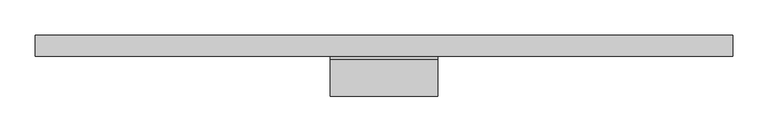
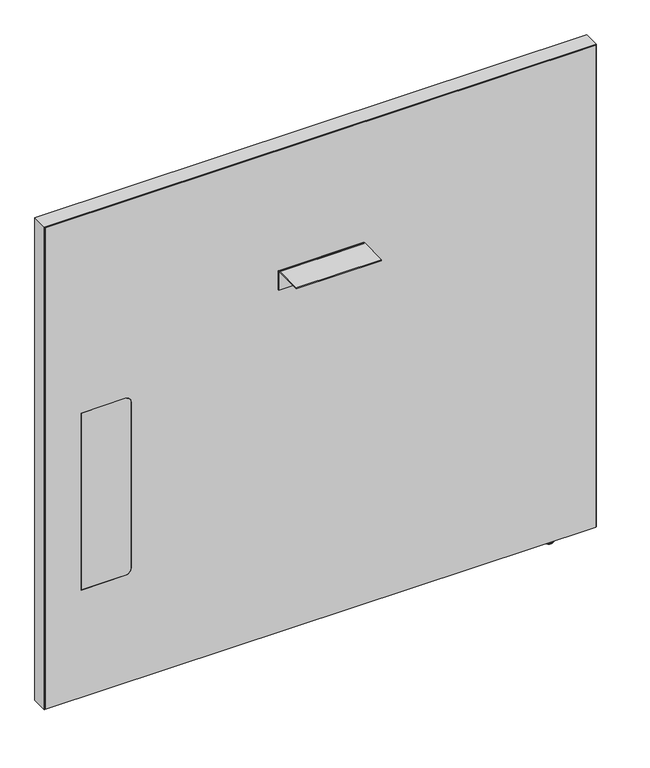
"""IFC4 building model written with IfcOpenShell, lengths in millimetres: furniture geometry, Steelcase - Answer Solution - Boundary Screen - Straight - Single Sided : 36H x 39W."""

from ifc_helpers import new_model, si_unit, point, frame, frame_2d, origin, place, context, project, spatial, polyline, circle_curve, ellipse_curve, trimmed, segment, composite_curve, outline, extrude, source, transform, mapped, element, save
from ifc_brep_helpers import plane_surface, cylinder_surface, revolved_surface, advanced_brep


def furniture_5cd6c2ea(model_context):
    return source(origin(), model_context, "Body", "SolidModel", [
        extrude(outline(composite_curve([segment(polyline([(-86.8398151, 696.4680019), (-86.8398151, 698.5), (-34.9450855, 698.5)]), True, "CONTINUOUS"), segment(trimmed(circle_curve(frame_2d((-34.9450855, 693.2447477)), 5.2552523), [point((-34.9450855, 698.5))], [point((-29.6898332, 693.2447477))], False, "CARTESIAN"), True, "CONTINUOUS"), segment(polyline([(-29.6898332, 693.2447477), (-29.6898332, 660.4), (-31.7218162, 660.4), (-31.7218162, 693.0058743)]), True, "CONTINUOUS"), segment(trimmed(circle_curve(frame_2d((-35.1839438, 693.0058743)), 3.4621276), [point((-31.7218162, 693.0058743))], [point((-35.1839438, 696.4680019))], True, "CARTESIAN"), True, "CONTINUOUS"), segment(polyline([(-35.1839438, 696.4680019), (-86.8398151, 696.4680019)]), True, "CONTINUOUS")], self_intersect=False)), frame((-227.3808593, 0.0, 0.0), z_axis=(1.0, 0.0, 0.0), x_axis=(0.0, 1.0, 0.0)), (0.0, 0.0, 1.0), 152.4000969),
        advanced_brep(
        [(266.9286488, -23.7588726, 9.9059849), (266.9286488, -5.9309607, 9.9059849), (266.9286488, -14.8449166, 9.9059849), (266.9286488, -23.7588726, 2.9673238), (266.9286488, -5.9309607, 2.9673238), (266.9286488, -22.7915354, 2.9673238), (266.9286488, -6.8982978, 2.9673238), (266.9286488, -22.7915354, 1.6569081), (266.9286488, -6.8982978, 1.6569081), (266.9286488, -21.1346274, 0.0), (266.9286488, -8.5552059, 0.0), (266.9286488, -14.8449166, 0.0)],
        [
            (0, 1, circle_curve(frame((266.9286488, -14.8449166, 9.9059849), z_axis=(0.0, 0.0, 1.0), x_axis=(0.0, 1.0, 0.0)), 8.913956)),
            (1, 2),
            (2, 0),
            (1, 0, circle_curve(frame((266.9286488, -14.8449166, 9.9059849), z_axis=(0.0, 0.0, 1.0), x_axis=(0.0, 1.0, 0.0)), 8.913956)),
            (3, 4, circle_curve(frame((266.9286488, -14.8449166, 2.9673238), z_axis=(0.0, 0.0, 1.0), x_axis=(0.0, 1.0, 0.0)), 8.913956)),
            (4, 1),
            (0, 3),
            (4, 3, circle_curve(frame((266.9286488, -14.8449166, 2.9673238), z_axis=(0.0, 0.0, 1.0), x_axis=(0.0, 1.0, 0.0)), 8.913956)),
            (5, 6, circle_curve(frame((266.9286488, -14.8449166, 2.9673238), z_axis=(0.0, 0.0, 1.0), x_axis=(0.0, 1.0, 0.0)), 7.9466188)),
            (6, 4),
            (3, 5),
            (6, 5, circle_curve(frame((266.9286488, -14.8449166, 2.9673238), z_axis=(0.0, 0.0, 1.0), x_axis=(0.0, 1.0, 0.0)), 7.9466188)),
            (7, 8, circle_curve(frame((266.9286488, -14.8449166, 1.6569081), z_axis=(0.0, 0.0, 1.0), x_axis=(0.0, 1.0, 0.0)), 7.9466188)),
            (8, 6),
            (5, 7),
            (8, 7, circle_curve(frame((266.9286488, -14.8449166, 1.6569081), z_axis=(0.0, 0.0, 1.0), x_axis=(0.0, 1.0, 0.0)), 7.9466188)),
            (9, 10, circle_curve(frame((266.9286488, -14.8449166, 0.0), z_axis=(0.0, 0.0, 1.0), x_axis=(0.0, 1.0, 0.0)), 6.2897107)),
            (10, 8, circle_curve(frame((266.9286488, -8.5552059, 1.6569081), z_axis=(1.0, 0.0, 0.0), x_axis=(0.0, 1.0, 0.0)), 1.6569081)),
            (7, 9, circle_curve(frame((266.9286488, -21.1346274, 1.6569081), z_axis=(1.0, 0.0, 0.0), x_axis=(0.0, -1.0, 0.0)), 1.6569081)),
            (10, 9, circle_curve(frame((266.9286488, -14.8449166, 0.0), z_axis=(0.0, 0.0, 1.0), x_axis=(0.0, 1.0, 0.0)), 6.2897107)),
            (11, 10),
            (9, 11),
        ],
        [
            plane_surface(frame((266.9286488, -14.8449166, 9.9059849), z_axis=(0.0, 0.0, 1.0), x_axis=(0.0, 1.0, 0.0))),
            cylinder_surface(frame((266.9286488, -14.8449166, 9.9059849), z_axis=(0.0, 0.0, -1.0), x_axis=(0.0, 1.0, 0.0)), 8.913956),
            plane_surface(frame((266.9286488, -14.8449166, 2.9673238), z_axis=(0.0, 0.0, -1.0), x_axis=(0.0, 1.0, 0.0))),
            cylinder_surface(frame((266.9286488, -14.8449166, 9.9059849), z_axis=(0.0, 0.0, -1.0), x_axis=(0.0, 1.0, 0.0)), 7.9466188),
            revolved_surface(trimmed(ellipse_curve(frame((266.9286488, -8.5552059, 1.6569081), z_axis=(-1.0, 0.0, 0.0), x_axis=(0.0, 1.0, 0.0)), 1.6569081, 1.6569081), [point((266.9286488, -6.8982978, 1.6569081))], [point((266.9286488, -8.5552059, 0.0))], True, "CARTESIAN"), (266.9286488, -14.8449166, 9.9059849), (0.0, 0.0, -1.0)),
            plane_surface(frame((266.9286488, -14.8449166, 0.0), z_axis=(0.0, 0.0, -1.0), x_axis=(0.0, 1.0, 0.0))),
        ],
        [
            (0, [[1, 2, 3]]),
            (0, [[4, -3, -2]]),
            (1, [[5, 6, -1, 7]]),
            (1, [[8, -7, -4, -6]]),
            (2, [[9, 10, -5, 11]]),
            (2, [[12, -11, -8, -10]]),
            (3, [[13, 14, -9, 15]]),
            (3, [[16, -15, -12, -14]]),
            (4, [[17, 18, -13, 19]]),
            (4, [[20, -19, -16, -18]]),
            (5, [[21, -17, 22]]),
            (5, [[-22, -20, -21]]),
        ],
    ),
        advanced_brep(
        [(343.0780168, 0.0, 924.342118), (343.0780168, 0.0, 9.9059849), (-645.4902221, 0.0, 9.9059849), (-645.4902221, 0.0, 924.342118), (343.0780168, -29.6898332, 924.342118), (-645.4902221, -29.6898332, 924.342118), (-645.4902221, -29.6898332, 9.9059849), (343.0780168, -29.6898332, 9.9059849), (-501.1463873, -29.6898332, 549.6162029), (-490.9863873, -29.6898332, 539.4562029), (-490.9863873, -29.6898332, 223.9362137), (-501.1463873, -29.6898332, 213.7762137), (-580.800285, -29.6898332, 213.7762137), (-580.800285, -29.6898332, 549.6162029), (-580.800285, -29.0550397, 549.6162029), (-501.1463873, -29.0550397, 549.6162029), (-580.800285, -29.0550397, 213.7762137), (-501.1463873, -29.0550397, 213.7762137), (-490.9863873, -29.0550397, 223.9362137), (-490.9863873, -29.0550397, 539.4562029)],
        [
            (0, 1),
            (1, 2),
            (2, 3),
            (3, 0),
            (4, 5),
            (5, 6),
            (6, 7),
            (7, 4),
            (8, 9, circle_curve(frame((-501.1463873, -29.6898332, 539.4562029), z_axis=(0.0, 1.0, 0.0), x_axis=(0.0, 0.0, 1.0)), 10.16)),
            (9, 10),
            (10, 11, circle_curve(frame((-501.1463873, -29.6898332, 223.9362137), z_axis=(0.0, 1.0, 0.0), x_axis=(0.0, 0.0, 1.0)), 10.16)),
            (11, 12),
            (12, 13),
            (13, 8),
            (0, 4),
            (7, 1),
            (6, 2),
            (5, 3),
            (13, 14),
            (14, 15),
            (15, 8),
            (12, 16),
            (16, 14),
            (11, 17),
            (17, 16),
            (10, 18),
            (18, 17, circle_curve(frame((-501.1463873, -29.0550397, 223.9362137), z_axis=(0.0, 1.0, 0.0), x_axis=(0.0, 0.0, 1.0)), 10.16)),
            (9, 19),
            (19, 18),
            (15, 19, circle_curve(frame((-501.1463873, -29.0550397, 539.4562029), z_axis=(0.0, 1.0, 0.0), x_axis=(0.0, 0.0, 1.0)), 10.16)),
        ],
        [
            plane_surface(frame((343.0780168, 0.0, 924.342118), z_axis=(0.0, 1.0, 0.0), x_axis=(0.0, 0.0, -1.0))),
            plane_surface(frame((343.0780168, -29.6898332, 924.342118), z_axis=(0.0, -1.0, 0.0), x_axis=(0.0, 0.0, 1.0))),
            plane_surface(frame((343.0780168, 0.0, 924.342118), z_axis=(1.0, 0.0, 0.0), x_axis=(0.0, -1.0, 0.0))),
            plane_surface(frame((343.0780168, 0.0, 9.9059849), z_axis=(0.0, 0.0, -1.0), x_axis=(0.0, -1.0, 0.0))),
            plane_surface(frame((-645.4902221, 0.0, 9.9059849), z_axis=(-1.0, 0.0, 0.0), x_axis=(0.0, -1.0, 0.0))),
            plane_surface(frame((-645.4902221, 0.0, 924.342118), z_axis=(0.0, 0.0, 1.0), x_axis=(0.0, -1.0, 0.0))),
            plane_surface(frame((-501.1463873, 0.0, 549.6162029), z_axis=(0.0, 0.0, -1.0), x_axis=(0.0, -1.0, 0.0))),
            plane_surface(frame((-580.800285, 0.0, 549.6162029), z_axis=(1.0, 0.0, 0.0), x_axis=(0.0, -1.0, 0.0))),
            plane_surface(frame((-580.800285, 0.0, 213.7762137), z_axis=(0.0, 0.0, 1.0), x_axis=(0.0, -1.0, 0.0))),
            revolved_surface(polyline([(-501.1463873, -29.6898332, 234.0962137), (-501.1463873, -29.0550397, 234.0962137)]), (-501.1463873, -29.6898332, 223.9362137), (0.0, -1.0, 0.0)),
            plane_surface(frame((-490.9863873, 0.0, 223.9362137), z_axis=(-1.0, 0.0, 0.0), x_axis=(0.0, -1.0, 0.0))),
            revolved_surface(polyline([(-501.1463873, -29.6898332, 549.6162029), (-501.1463873, -29.0550397, 549.6162029)]), (-501.1463873, -29.6898332, 539.4562029), (0.0, -1.0, 0.0)),
            plane_surface(frame((-490.9863873, -29.0550397, 629.172953), z_axis=(0.0, -1.0, 0.0), x_axis=(0.0, 0.0, 1.0))),
        ],
        [
            (0, [[1, 2, 3, 4]]),
            (1, [[5, 6, 7, 8], [9, 10, 11, 12, 13, 14]]),
            (2, [[-1, 15, -8, 16]]),
            (3, [[-2, -16, -7, 17]]),
            (4, [[-3, -17, -6, 18]]),
            (5, [[-4, -18, -5, -15]]),
            (6, [[-14, 19, 20, 21]]),
            (7, [[-13, 22, 23, -19]]),
            (8, [[-12, 24, 25, -22]]),
            (9, [[-11, 26, 27, -24]]),
            (10, [[-10, 28, 29, -26]]),
            (11, [[-9, -21, 30, -28]]),
            (12, [[-20, -23, -25, -27, -29, -30]]),
        ],
    ),
        extrude(outline(composite_curve([segment(polyline([(549.6162029, -501.1463873), (549.6162029, -580.800285), (213.7762137, -580.800285), (213.7762137, -501.1463873)]), True, "CONTINUOUS"), segment(trimmed(circle_curve(frame_2d((223.9362137, -501.1463873)), 10.16), [point((213.7762137, -501.1463873))], [point((223.9362137, -490.9863873))], False, "CARTESIAN"), True, "CONTINUOUS"), segment(polyline([(223.9362137, -490.9863873), (539.4562029, -490.9863873)]), True, "CONTINUOUS"), segment(trimmed(circle_curve(frame_2d((539.4562029, -501.1463873)), 10.16), [point((539.4562029, -490.9863873))], [point((549.6162029, -501.1463873))], False, "CARTESIAN"), True, "CONTINUOUS")], self_intersect=False)), frame((0.0, -29.6898332, 0.0), z_axis=(0.0, 1.0, 0.0), x_axis=(0.0, 0.0, 1.0)), (0.0, 0.0, 1.0), 0.6347935),
        extrude(outline(polyline([(925.322, 344.1191891), (925.322, -646.4808109), (9.9059849, -646.4808109), (9.9059849, -645.4902221), (924.342118, -645.4902221), (924.342118, 343.0780168), (9.9059849, 343.0780168), (9.9059849, 344.1191891), (925.322, 344.1191891)])), frame((0.0, -29.6898332, 0.0), z_axis=(0.0, 1.0, 0.0), x_axis=(0.0, 0.0, 1.0)), (0.0, 0.0, 1.0), 29.6898332),
    ])


if __name__ == "__main__":
    model = new_model("IFC4")
    model_context = context("Model", 3, world=origin())
    ifc_project = project(units=[si_unit("LENGTHUNIT", "METRE", prefix="MILLI")], contexts=[model_context])
    site = spatial("IfcSite", under=ifc_project)
    building = spatial("IfcBuilding", under=site)
    placement = place(None, origin())
    furniture_shape = furniture_5cd6c2ea(model_context)
    element("IfcFurniture", 1, ObjectType="Steelcase - Answer Solution - Boundary Screen - Straight - Single Sided : 36H x 39W", at=placement, inside=building, context=model_context, shape_type="MappedRepresentation", body=[
        mapped(furniture_shape, transform((0.0, 0.0, 0.0), x_axis=(1.0, 0.0, 0.0), y_axis=(0.0, 1.0, 0.0), z_axis=(0.0, 0.0, 1.0))),
    ])
    save(model, "model.ifc")
